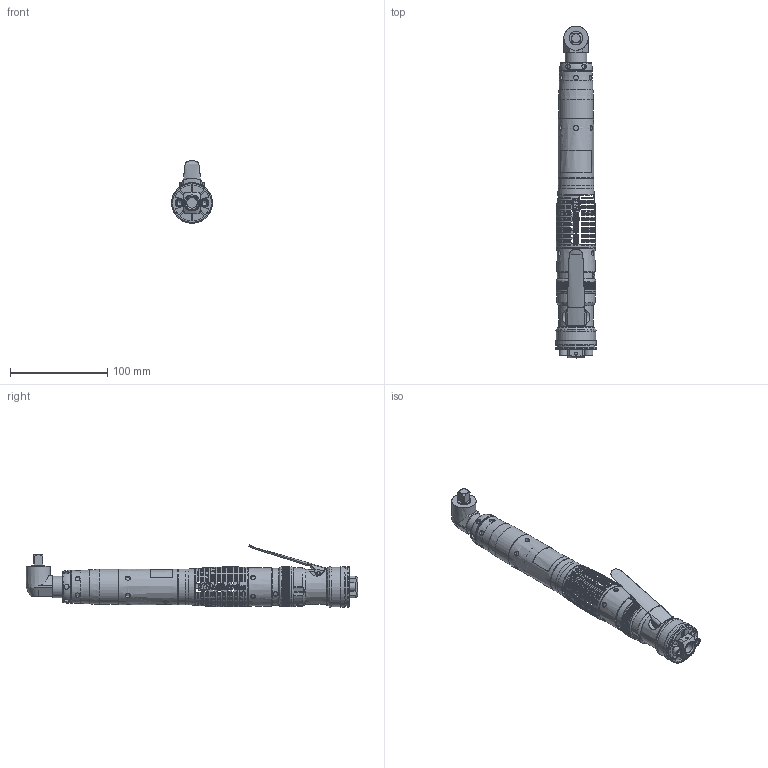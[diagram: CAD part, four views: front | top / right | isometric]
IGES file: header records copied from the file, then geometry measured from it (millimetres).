
Global section: file name: C:\Documents and Settings\jyoung\Desktop\QA4AALS020NP25S06.igs; native system: Unigraphics Version X V2.0; preprocessor: Unigraphics NX IGES V2.0; date: 20051011.083642; units: millimetre
Bounding box: 42 x 341.95 x 64.44 mm (x, y, z)
Surface area: 69501.5 mm2 (no closed solid volume)
Topology: 0 solids, 1 shells, 2883 faces, 30186 edges, 30040 vertices
Faces by surface type: extrusion 1186, revolution 962, bspline 735
